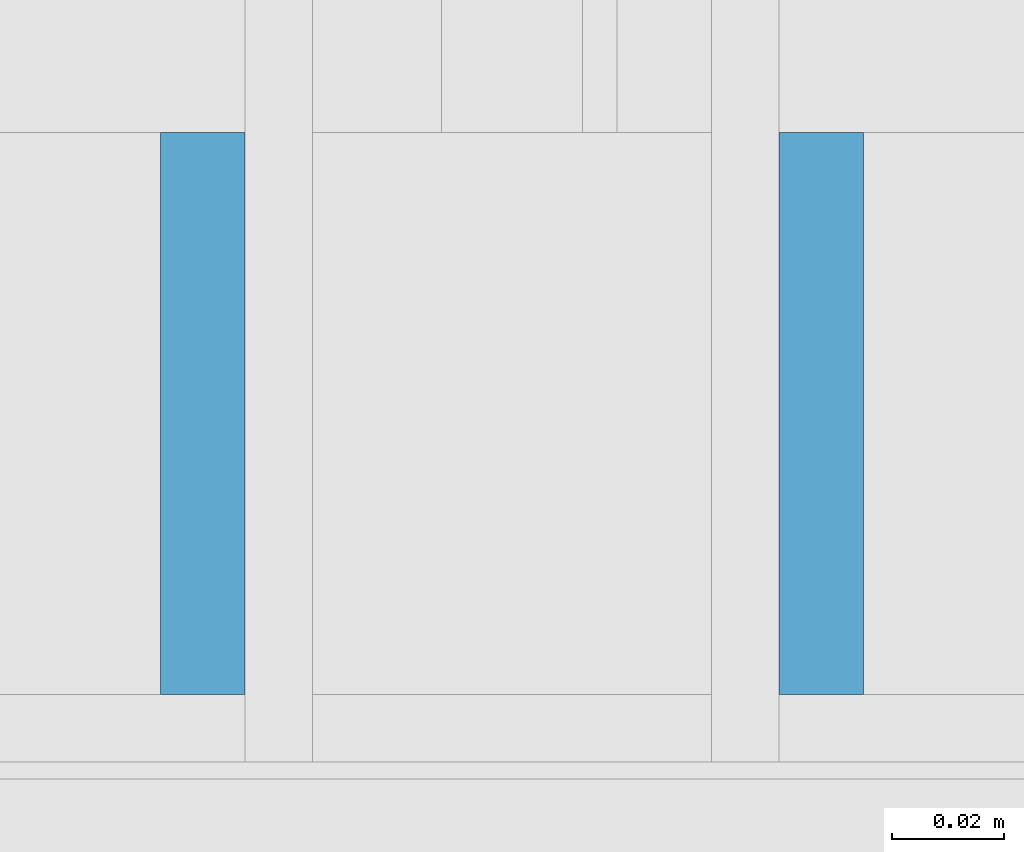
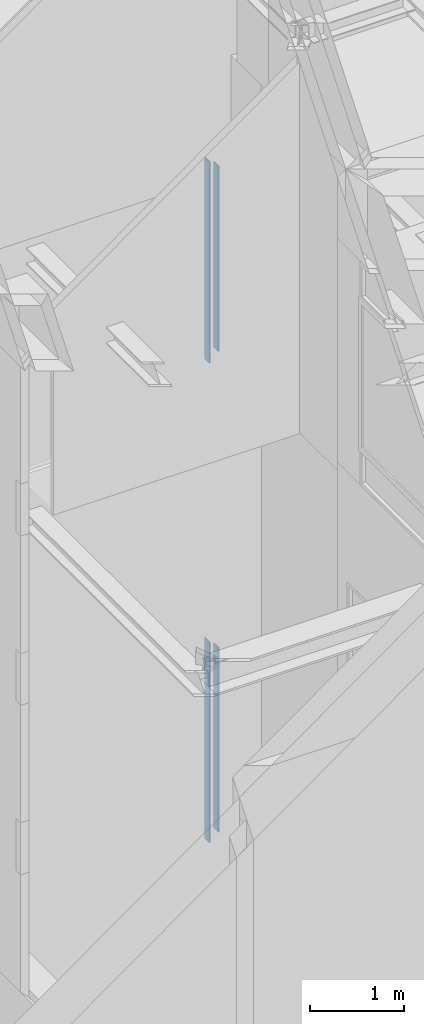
# One storey, part 38 of 583: 4 building element parts, 2 elements without a shape of their own.
"""IFC2X3 building model written with IfcOpenShell, lengths in metres."""

from ifc_helpers import new_model, entity, si_unit, converted_unit, derived_unit, money_unit, direction, frame, origin_with_axes, place, context, subcontext, project, spatial, polyline, outline, extrude, material, type_object, element, aggregate, save


model = new_model("IFC2X3")

# Units and contexts
model_context = context("Model", 3, precision=1e-05, world=origin_with_axes(), true_north=direction((0.0, 1.0)))
body_context = subcontext(model_context, "Body", "Model", "MODEL_VIEW", scale=1.0)
ifc_project = project(units=[si_unit("LENGTHUNIT", "METRE"), si_unit("AREAUNIT", "SQUARE_METRE"), si_unit("VOLUMEUNIT", "CUBIC_METRE"), si_unit("ABSORBEDDOSEUNIT", "GRAY"), si_unit("AMOUNTOFSUBSTANCEUNIT", "MOLE"), si_unit("DOSEEQUIVALENTUNIT", "SIEVERT"), si_unit("ELECTRICCAPACITANCEUNIT", "FARAD"), si_unit("ELECTRICCHARGEUNIT", "COULOMB"), si_unit("ELECTRICCONDUCTANCEUNIT", "SIEMENS"), si_unit("ELECTRICCURRENTUNIT", "AMPERE"), si_unit("ELECTRICRESISTANCEUNIT", "OHM"), si_unit("ELECTRICVOLTAGEUNIT", "VOLT"), si_unit("ENERGYUNIT", "JOULE"), si_unit("FORCEUNIT", "NEWTON"), si_unit("FREQUENCYUNIT", "HERTZ"), si_unit("ILLUMINANCEUNIT", "LUX"), si_unit("INDUCTANCEUNIT", "HENRY"), si_unit("LUMINOUSFLUXUNIT", "LUMEN"), si_unit("LUMINOUSINTENSITYUNIT", "CANDELA"), si_unit("MAGNETICFLUXDENSITYUNIT", "TESLA"), si_unit("MAGNETICFLUXUNIT", "WEBER"), si_unit("MASSUNIT", "GRAM"), converted_unit("PLANEANGLEUNIT", "degree", entity("IfcReal", 0.0174532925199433), si_unit("PLANEANGLEUNIT", "RADIAN"), dimensions=[0, 0, 0, 0, 0, 0, 0]), si_unit("POWERUNIT", "WATT"), si_unit("PRESSUREUNIT", "PASCAL"), si_unit("RADIOACTIVITYUNIT", "BECQUEREL"), si_unit("SOLIDANGLEUNIT", "STERADIAN"), si_unit("THERMODYNAMICTEMPERATUREUNIT", "KELVIN"), si_unit("TIMEUNIT", "SECOND"), derived_unit("ACCELERATIONUNIT", [(si_unit("LENGTHUNIT", "METRE"), 1), (si_unit("TIMEUNIT", "SECOND"), -2)]), derived_unit("ANGULARVELOCITYUNIT", [(converted_unit("PLANEANGLEUNIT", "degree", entity("IfcReal", 0.0174532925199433), si_unit("PLANEANGLEUNIT", "RADIAN"), dimensions=[0, 0, 0, 0, 0, 0, 0]), 1), (si_unit("TIMEUNIT", "SECOND"), -1)]), derived_unit("CURVATUREUNIT", [(converted_unit("PLANEANGLEUNIT", "degree", entity("IfcReal", 0.0174532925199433), si_unit("PLANEANGLEUNIT", "RADIAN"), dimensions=[0, 0, 0, 0, 0, 0, 0]), 1), (si_unit("LENGTHUNIT", "METRE"), -1)]), derived_unit("DYNAMICVISCOSITYUNIT", [(si_unit("PRESSUREUNIT", "PASCAL"), 1), (si_unit("TIMEUNIT", "SECOND"), 1)]), derived_unit("HEATFLUXDENSITYUNIT", [(si_unit("POWERUNIT", "WATT"), 1), (si_unit("LENGTHUNIT", "METRE"), -2)]), derived_unit("HEATINGVALUEUNIT", [(si_unit("ENERGYUNIT", "JOULE"), 1), (si_unit("MASSUNIT", "GRAM"), -1)]), derived_unit("INTEGERCOUNTRATEUNIT", [(si_unit("TIMEUNIT", "SECOND"), -1)]), derived_unit("IONCONCENTRATIONUNIT", [(si_unit("MASSUNIT", "GRAM"), 1), (si_unit("VOLUMEUNIT", "CUBIC_METRE"), -1)]), derived_unit("ISOTHERMALMOISTURECAPACITYUNIT", [(si_unit("VOLUMEUNIT", "CUBIC_METRE"), 1), (si_unit("MASSUNIT", "GRAM"), -1)]), derived_unit("KINEMATICVISCOSITYUNIT", [(si_unit("AREAUNIT", "SQUARE_METRE"), 1), (si_unit("TIMEUNIT", "SECOND"), -1)]), derived_unit("LINEARFORCEUNIT", [(si_unit("FORCEUNIT", "NEWTON"), 1), (si_unit("LENGTHUNIT", "METRE"), -1)]), derived_unit("LINEARMOMENTUNIT", [(si_unit("FORCEUNIT", "NEWTON"), 1), (si_unit("LENGTHUNIT", "METRE"), -1)]), derived_unit("LINEARSTIFFNESSUNIT", [(si_unit("FORCEUNIT", "NEWTON"), 1), (si_unit("LENGTHUNIT", "METRE"), -1)]), derived_unit("LINEARVELOCITYUNIT", [(si_unit("LENGTHUNIT", "METRE"), 1), (si_unit("TIMEUNIT", "SECOND"), -1)]), derived_unit("LUMINOUSINTENSITYDISTRIBUTIONUNIT", [(si_unit("LUMINOUSINTENSITYUNIT", "CANDELA"), 1), (si_unit("LUMINOUSFLUXUNIT", "LUMEN"), -1)]), derived_unit("MASSDENSITYUNIT", [(si_unit("MASSUNIT", "GRAM"), 1), (si_unit("VOLUMEUNIT", "CUBIC_METRE"), -1)]), derived_unit("MASSFLOWRATEUNIT", [(si_unit("MASSUNIT", "GRAM"), 1), (si_unit("TIMEUNIT", "SECOND"), -1)]), derived_unit("MASSPERLENGTHUNIT", [(si_unit("MASSUNIT", "GRAM"), 1), (si_unit("LENGTHUNIT", "METRE"), -1)]), derived_unit("MODULUSOFELASTICITYUNIT", [(si_unit("FORCEUNIT", "NEWTON"), 1), (si_unit("AREAUNIT", "SQUARE_METRE"), -1)]), derived_unit("MODULUSOFLINEARSUBGRADEREACTIONUNIT", [(si_unit("FORCEUNIT", "NEWTON"), 1), (si_unit("LENGTHUNIT", "METRE"), -2)]), derived_unit("MODULUSOFROTATIONALSUBGRADEREACTIONUNIT", [(si_unit("FORCEUNIT", "NEWTON"), 1), (si_unit("LENGTHUNIT", "METRE"), 1)]), derived_unit("MODULUSOFSUBGRADEREACTIONUNIT", [(si_unit("FORCEUNIT", "NEWTON"), 1), (si_unit("VOLUMEUNIT", "CUBIC_METRE"), -1)]), derived_unit("MOISTUREDIFFUSIVITYUNIT", [(si_unit("VOLUMEUNIT", "CUBIC_METRE"), 1), (si_unit("TIMEUNIT", "SECOND"), -1)]), derived_unit("MOLECULARWEIGHTUNIT", [(si_unit("MASSUNIT", "GRAM"), 1), (si_unit("AMOUNTOFSUBSTANCEUNIT", "MOLE"), -1)]), derived_unit("PLANARFORCEUNIT", [(si_unit("FORCEUNIT", "NEWTON"), 1), (si_unit("LENGTHUNIT", "METRE"), -2)]), derived_unit("ROTATIONALFREQUENCYUNIT", [(si_unit("TIMEUNIT", "SECOND"), -1)]), derived_unit("ROTATIONALMASSUNIT", [(si_unit("MASSUNIT", "GRAM"), 1), (si_unit("LENGTHUNIT", "METRE"), 2)]), derived_unit("ROTATIONALSTIFFNESSUNIT", [(si_unit("FORCEUNIT", "NEWTON"), 1), (si_unit("LENGTHUNIT", "METRE"), 1), (converted_unit("PLANEANGLEUNIT", "degree", entity("IfcReal", 0.0174532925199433), si_unit("PLANEANGLEUNIT", "RADIAN"), dimensions=[0, 0, 0, 0, 0, 0, 0]), -1)]), derived_unit("SECTIONAREAINTEGRALUNIT", [(si_unit("LENGTHUNIT", "METRE"), 5)]), derived_unit("SECTIONMODULUSUNIT", [(si_unit("LENGTHUNIT", "METRE"), 3)]), derived_unit("SHEARMODULUSUNIT", [(si_unit("FORCEUNIT", "NEWTON"), 1), (si_unit("AREAUNIT", "SQUARE_METRE"), -1)]), derived_unit("SOUNDPOWERUNIT", [(si_unit("ENERGYUNIT", "JOULE"), 1), (si_unit("TIMEUNIT", "SECOND"), -1)]), derived_unit("SPECIFICHEATCAPACITYUNIT", [(si_unit("FORCEUNIT", "NEWTON"), 1), (si_unit("MASSUNIT", "GRAM"), -1), (si_unit("THERMODYNAMICTEMPERATUREUNIT", "KELVIN"), -1)]), derived_unit("TEMPERATUREGRADIENTUNIT", [(si_unit("THERMODYNAMICTEMPERATUREUNIT", "KELVIN"), 1), (si_unit("LENGTHUNIT", "METRE"), -1)]), derived_unit("THERMALADMITTANCEUNIT", [(si_unit("POWERUNIT", "WATT"), 1), (si_unit("AREAUNIT", "SQUARE_METRE"), -1), (si_unit("THERMODYNAMICTEMPERATUREUNIT", "KELVIN"), -1)]), derived_unit("THERMALCONDUCTANCEUNIT", [(si_unit("POWERUNIT", "WATT"), 1), (si_unit("LENGTHUNIT", "METRE"), -1), (si_unit("THERMODYNAMICTEMPERATUREUNIT", "KELVIN"), -1)]), derived_unit("THERMALEXPANSIONCOEFFICIENTUNIT", [(si_unit("THERMODYNAMICTEMPERATUREUNIT", "KELVIN"), -1)]), derived_unit("THERMALRESISTANCEUNIT", [(si_unit("AREAUNIT", "SQUARE_METRE"), 1), (si_unit("POWERUNIT", "WATT"), -1)]), derived_unit("THERMALTRANSMITTANCEUNIT", [(si_unit("POWERUNIT", "WATT"), 1), (si_unit("AREAUNIT", "SQUARE_METRE"), -1), (si_unit("THERMODYNAMICTEMPERATUREUNIT", "KELVIN"), -1)]), derived_unit("TORQUEUNIT", [(si_unit("FORCEUNIT", "NEWTON"), 1), (si_unit("LENGTHUNIT", "METRE"), 1)]), derived_unit("VAPORPERMEABILITYUNIT", [(si_unit("MASSUNIT", "GRAM"), 1), (si_unit("TIMEUNIT", "SECOND"), -1)]), derived_unit("VOLUMETRICFLOWRATEUNIT", [(si_unit("VOLUMEUNIT", "CUBIC_METRE"), 1), (si_unit("TIMEUNIT", "SECOND"), -1)]), derived_unit("WARPINGCONSTANTUNIT", [(si_unit("LENGTHUNIT", "METRE"), 6)]), derived_unit("WARPINGMOMENTUNIT", [(si_unit("FORCEUNIT", "NEWTON"), 1), (si_unit("LENGTHUNIT", "METRE"), 2)]), money_unit("GBP")], contexts=[model_context])

# Site, building, storey
site_placement = place(None, origin_with_axes())
site = spatial("IfcSite", under=ifc_project, at=site_placement, Name="Site", CompositionType="ELEMENT")
building_placement = place(site_placement, origin_with_axes())
building = spatial("IfcBuilding", under=site, at=building_placement, Name="Building01", CompositionType="ELEMENT")
storey_placement = place(building_placement, frame((0.0, 0.0, 20.78), z_axis=(0.0, 0.0, 1.0), x_axis=(1.0, 0.0, 0.0)))
storey = spatial("IfcBuildingStorey", under=building, at=storey_placement, Name="RL", CompositionType="ELEMENT", Elevation=20.78)

# Wall, building element parts
wall_type = type_object("IfcWallType", Name="SHE_A-Walls_Type05a_Partition_95mm_tall", PredefinedType="NOTDEFINED")
wall_1_placement = place(storey_placement, frame((3.42, 5.15, -2.9125), z_axis=(0.0, 1.0, 0.0), x_axis=(0.0, 0.0, -1.0)))
wall_1 = element("IfcWall", 1, at=wall_1_placement, inside=storey, type_object=wall_type, Name="5A", ObjectType="SHE_A-Walls_Type05a_Partition_95mm_tall")
ifc_material = material(Name="A_BSUK_Walls_Timber")
placement_1 = place(wall_1_placement, origin_with_axes())
building_element_part_1 = element("IfcBuildingElementPart", 2, at=placement_1, material=ifc_material, Name="2", context=body_context, shape_type="SweptSolid", body=[
    extrude(outline(polyline([(2.57, 0.05), (-0.035, 0.05), (-0.035, 0.035), (2.555, 0.035), (2.57, 0.05)])), frame((0.0, 0.0, 0.015), z_axis=(0.0, 0.0, 1.0), x_axis=(1.0, 0.0, 0.0)), (0.0, 0.0, 1.0), 0.1),
])
building_element_part_2 = element("IfcBuildingElementPart", 3, at=placement_1, material=ifc_material, Name="3", context=body_context, shape_type="SweptSolid", body=[
    extrude(outline(polyline([(2.46, -0.06), (0.06, -0.06), (0.06, -0.075), (2.445, -0.075), (2.46, -0.06)])), frame((0.0, 0.0, 0.015), z_axis=(0.0, 0.0, 1.0), x_axis=(1.0, 0.0, 0.0)), (0.0, 0.0, 1.0), 0.1),
])
aggregate(wall_1, [building_element_part_1, building_element_part_2])

wall_2_placement = place(storey_placement, frame((3.42, 5.15, -11.647464), z_axis=(0.0, 1.0, 0.0), x_axis=(0.0, 0.0, -1.0)))
wall_2 = element("IfcWall", 4, at=wall_2_placement, inside=storey, type_object=wall_type, Name="5A", ObjectType="SHE_A-Walls_Type05a_Partition_95mm_tall")
placement_2 = place(wall_2_placement, origin_with_axes())
building_element_part_3 = element("IfcBuildingElementPart", 5, at=placement_2, material=ifc_material, Name="2", context=body_context, shape_type="SweptSolid", body=[
    extrude(outline(polyline([(-2.555, 0.035), (0.035, 0.035), (0.035, 0.05), (-2.57, 0.05), (-2.555, 0.035)])), frame((0.0, 0.0, 0.015), z_axis=(0.0, 0.0, 1.0), x_axis=(1.0, 0.0, 0.0)), (0.0, 0.0, 1.0), 0.1),
])
building_element_part_4 = element("IfcBuildingElementPart", 6, at=placement_2, material=ifc_material, Name="3", context=body_context, shape_type="SweptSolid", body=[
    extrude(outline(polyline([(-2.445, -0.075), (-0.06, -0.075), (-0.06, -0.06), (-2.46, -0.06), (-2.445, -0.075)])), frame((0.0, 0.0, 0.015), z_axis=(0.0, 0.0, 1.0), x_axis=(1.0, 0.0, 0.0)), (0.0, 0.0, 1.0), 0.1),
])
aggregate(wall_2, [building_element_part_3, building_element_part_4])

save(model, "model.ifc")
